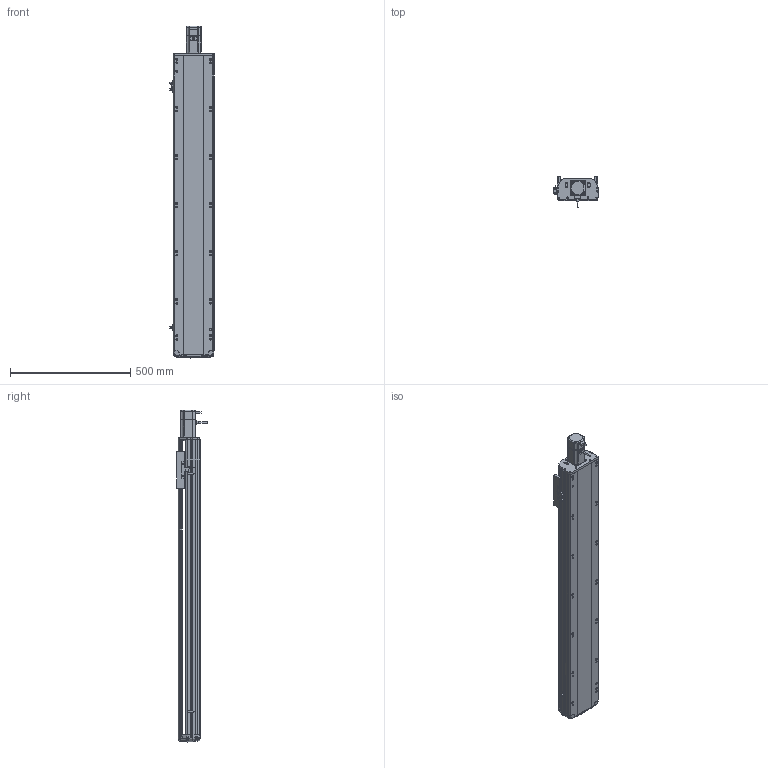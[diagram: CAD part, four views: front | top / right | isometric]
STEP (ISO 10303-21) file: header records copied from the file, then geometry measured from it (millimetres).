
FILE_DESCRIPTION (( 'STEP AP214' ), '1' );
FILE_NAME ('RTH17-XX-1000-E-M40-C4.STEP', '2025-10-24T05:44:46', ( '' ), ( '' ), 'SwSTEP 2.0', 'SolidWorks 2018', '' );
FILE_SCHEMA (( 'AUTOMOTIVE_DESIGN' ));
Length unit declared in the file: millimetre
Products named in the file (9): N_RTH17-E-011底座^RTH17-XX-XX-E-M40-C4（方程式）; N_OMRON EE-SX672 換覜ん^RTH17-XX-XX-E-M40-C4ㄗ源最宒ㄘ; N_M40^RTH17-XX-XX-E-M40-C4（方程式）; N_RTH17-E-004丝杆螺母连接座^RTH17-XX-XX-E-M40-C4（方程式）; RTH17-XX-1000-E-M40-C4; N_RTH17-E-008-P40电机板^RTH17-XX-XX-E-M40-C4（方程式）; N_RTH-BL-012 感应片(外置)^RTH17-XX-XX-E-M40-C4（方程式）; N_RTH17-E-007上盖^RTH17-XX-XX-E-M40-C4（方程式）; N_RTH17-GY-001P^RTH17-XX-XX-E-M40-C4（方程式）
Assembly tree (10 placements, depth 2):
  RTH17-XX-1000-E-M40-C4
    N_RTH17-E-011底座^RTH17-XX-XX-E-M40-C4（方程式）
    N_RTH17-E-007上盖^RTH17-XX-XX-E-M40-C4（方程式）
    N_RTH17-E-008-P40电机板^RTH17-XX-XX-E-M40-C4（方程式）
    N_OMRON EE-SX672 換覜ん^RTH17-XX-XX-E-M40-C4ㄗ源最宒ㄘ  x3
    N_RTH-BL-012 感应片(外置)^RTH17-XX-XX-E-M40-C4（方程式）
    N_RTH17-E-004丝杆螺母连接座^RTH17-XX-XX-E-M40-C4（方程式）
    N_RTH17-GY-001P^RTH17-XX-XX-E-M40-C4（方程式）
    N_M40^RTH17-XX-XX-E-M40-C4（方程式）
Bounding box: 183.5 x 127 x 1380.69 mm (x, y, z)
Volume: 9845300.7 mm3; surface area: 1307741.4 mm2
Topology: 9 solids, 11 shells, 1697 faces, 4765 edges, 3110 vertices
Faces by surface type: plane 831, cylinder 499, bspline 330, cone 28, torus 9
Entity records: 50333 total; most frequent: CARTESIAN_POINT 20032, ORIENTED_EDGE 6554, DIRECTION 5445, EDGE_CURVE 3281, VERTEX_POINT 2146, AXIS2_PLACEMENT_3D 1816, LINE 1813, VECTOR 1813
